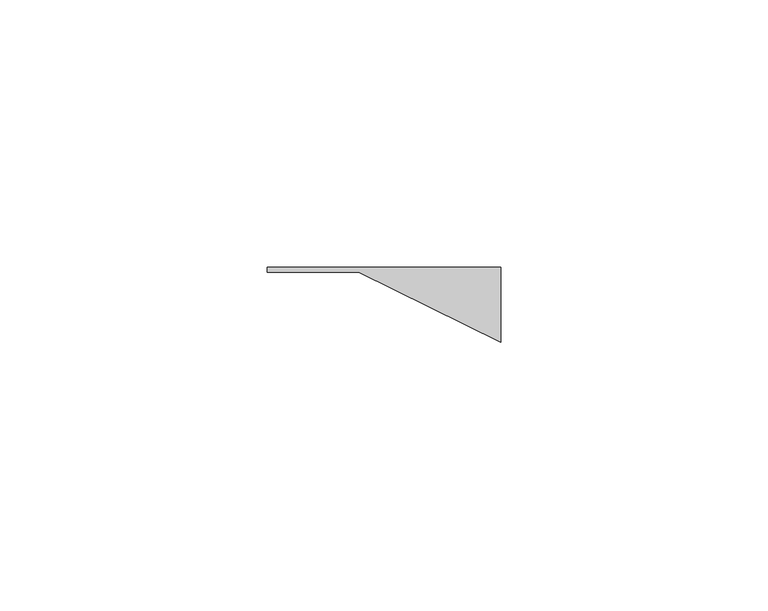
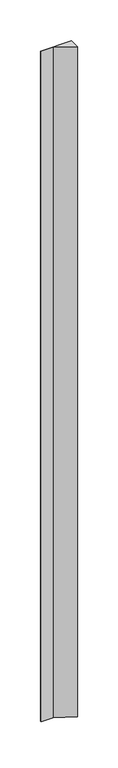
"""IFC4 building model written with IfcOpenShell, lengths in millimetres: plate geometry, ATELIERS 3S_GLACE PISSAILLAS 1000_VERTICAL : AZURO."""

from ifc_helpers import new_model, si_unit, origin, origin_with_axes, place, context, project, spatial, polyline, outline, extrude, source, transform, mapped, element, save


def plate_d8c70e3e(model_context):
    return source(origin(), model_context, "Body", "SweptSolid", [
        extrude(outline(polyline([(-21.7987415, 0.0), (21.7987415, 0.0), (21.7987415, -14.0071277), (-4.7515298, -0.864757), (-21.7987415, -0.864757), (-21.7987415, 0.0)])), origin_with_axes(), (0.0, 0.0, 1.0), 1000.0),
    ])


if __name__ == "__main__":
    model = new_model("IFC4")
    model_context = context("Model", 3, world=origin())
    ifc_project = project(units=[si_unit("LENGTHUNIT", "METRE", prefix="MILLI")], contexts=[model_context])
    site = spatial("IfcSite", under=ifc_project)
    building = spatial("IfcBuilding", under=site)
    placement = place(None, origin())
    plate_shape = plate_d8c70e3e(model_context)
    element("IfcPlate", 1, ObjectType="ATELIERS 3S_GLACE PISSAILLAS 1000_VERTICAL : AZURO", at=placement, inside=building, context=model_context, shape_type="MappedRepresentation", body=[
        mapped(plate_shape, transform((0.0, 0.0, 0.0), x_axis=(1.0, 0.0, 0.0), y_axis=(0.0, 1.0, 0.0), z_axis=(0.0, 0.0, 1.0))),
    ])
    save(model, "model.ifc")
